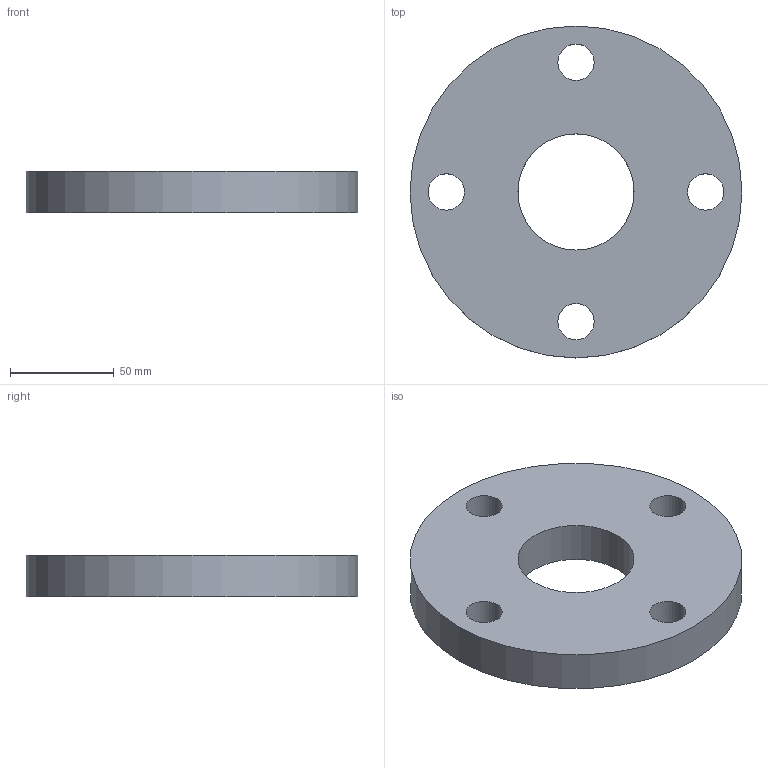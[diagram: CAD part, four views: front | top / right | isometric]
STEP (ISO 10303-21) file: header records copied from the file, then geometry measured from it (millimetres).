
FILE_DESCRIPTION(('FreeCAD Model'),'2;1');
FILE_NAME('Open CASCADE Shape Model','2026-10-30T23:44:36',('FreeCAD'),( 'FreeCAD'),'Open CASCADE STEP processor 7.6','FreeCAD','Unknown');
FILE_SCHEMA(('AUTOMOTIVE_DESIGN { 1 0 10303 214 1 1 1 1 }'));
Length unit declared in the file: millimetre
Products named in the file (1): Open CASCADE STEP translator 7.6 1
Bounding box: 160 x 160 x 20 mm (x, y, z)
Volume: 333621.4 mm3; surface area: 51332.1 mm2
Topology: 1 solids, 1 shells, 8 faces, 18 edges, 12 vertices
Faces by surface type: cylinder 6, plane 2
Full cylindrical faces by diameter (mm): 17.5 x4, 56 x1, 160 x1
Entity records: 264 total; most frequent: DIRECTION 48, CARTESIAN_POINT 39, ORIENTED_EDGE 36, AXIS2_PLACEMENT_3D 21, FACE_BOUND 18, EDGE_LOOP 18, EDGE_CURVE 18, VERTEX_POINT 12
